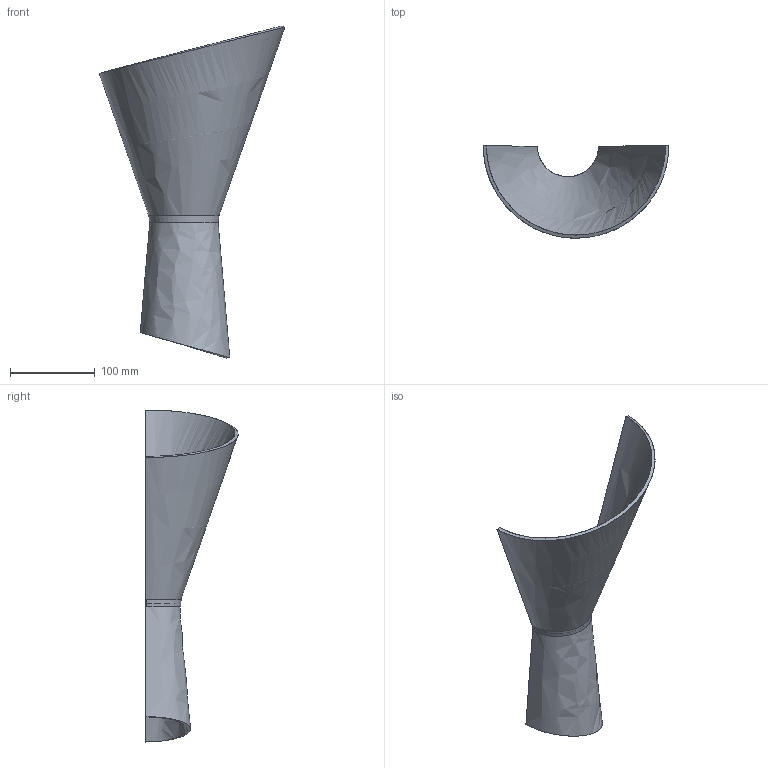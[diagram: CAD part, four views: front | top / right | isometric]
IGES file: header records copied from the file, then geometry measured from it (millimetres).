
Global section: file name: C:\Users\EQUIPO\Desktop\COLECCIONES ACB MODELADAS 3D OK\PERLA\perla-16-3020-e27 (IGES).igs; native system: Rhinoceros ( Oct  8 2013 ); preprocessor: Trout Lake IGES 012 Oct  8 2013; date: 190207.110015; units: millimetre
Bounding box: 218.9 x 109.04 x 391.89 mm (x, y, z)
Surface area: 145787.5 mm2 (no closed solid volume)
Topology: 0 solids, 0 shells, 17 faces, 210 edges, 210 vertices
Faces by surface type: bspline 17
